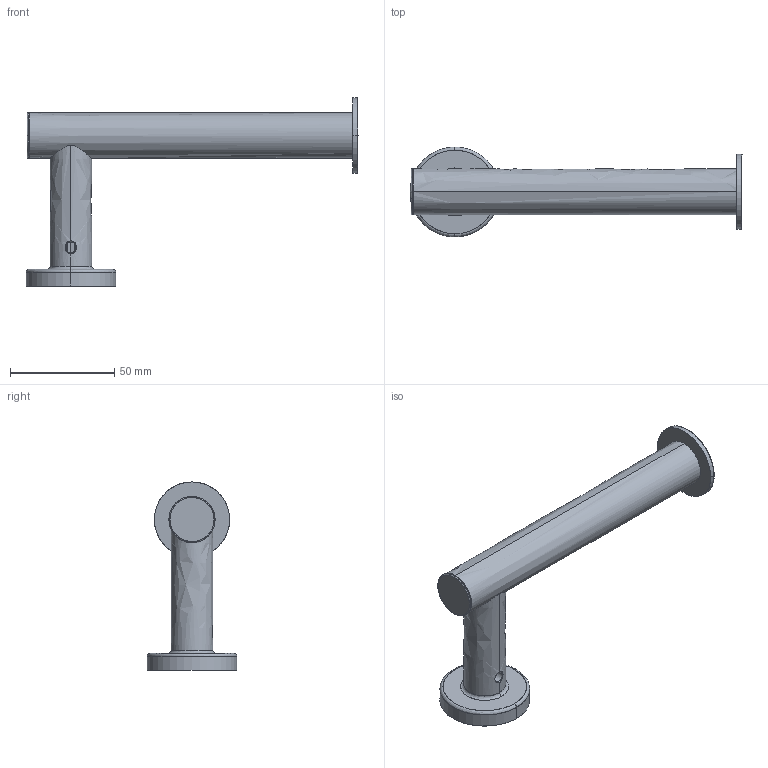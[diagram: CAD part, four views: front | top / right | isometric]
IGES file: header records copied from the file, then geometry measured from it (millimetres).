
Start section: SolidWorks IGES file using analytic representation for surfaces
Global section: file name: G:\Projects\New project\For Marketing\IGS\IGS\2050158VW.IGS; native system: SolidWorks 2010; preprocessor: SolidWorks 2010; author: weijuan; date: 151008.150739; units: inch
Bounding box: 159 x 43 x 90.08 mm (x, y, z)
Surface area: 22957.2 mm2 (no closed solid volume)
Topology: 0 solids, 0 shells, 80 faces, 967 edges, 967 vertices
Faces by surface type: revolution 40, bspline 40
